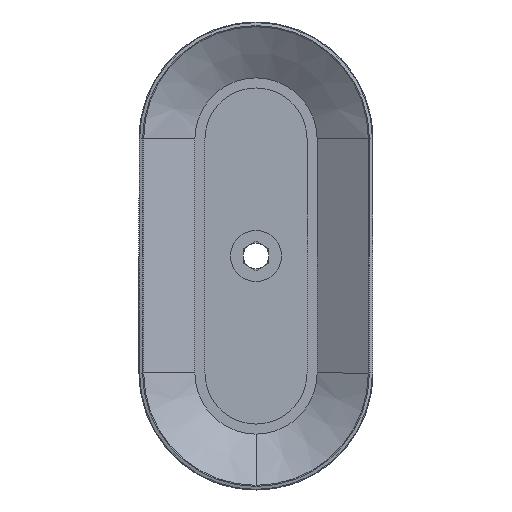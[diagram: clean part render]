
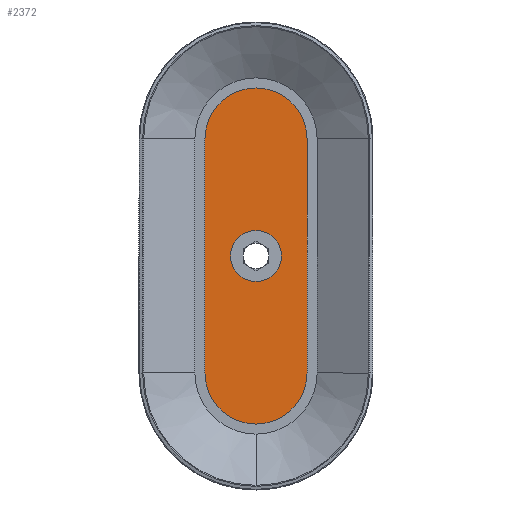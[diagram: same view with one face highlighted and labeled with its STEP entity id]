
A CAD part, front view. The second image highlights one B-rep face of the part: STEP entity #2372.
In plain terms, the highlighted planar face has unit normal (0, -1, 0).
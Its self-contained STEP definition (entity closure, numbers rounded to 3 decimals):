
#129 = CARTESIAN_POINT ( 'NONE',  ( 6., 13., 0. ) ) ;
#465 = CARTESIAN_POINT ( 'NONE',  ( 12., 13., -27.5 ) ) ;
#685 = CARTESIAN_POINT ( 'NONE',  ( 12., 13., 27.5 ) ) ;
#853 = DIRECTION ( 'NONE',  ( 0., 0., 1. ) ) ;
#914 = LINE ( 'NONE', #7797, #6466 ) ;
#1040 = EDGE_CURVE ( 'NONE', #3071, #6704, #4402, .T. ) ;
#1316 = AXIS2_PLACEMENT_3D ( 'NONE', #4159, #7029, #7206 ) ;
#1710 = EDGE_LOOP ( 'NONE', ( #8822, #7501 ) ) ;
#1832 = VERTEX_POINT ( 'NONE', #129 ) ;
#1852 = FACE_OUTER_BOUND ( 'NONE', #9167, .T. ) ;
#2211 = DIRECTION ( 'NONE',  ( -1., 0., 0. ) ) ;
#2372 = ADVANCED_FACE ( 'NONE', ( #1852, #11239 ), #4519, .F. ) ;
#2411 = VERTEX_POINT ( 'NONE', #685 ) ;
#2568 = CARTESIAN_POINT ( 'NONE',  ( -12., 13., -27.5 ) ) ;
#2909 = EDGE_CURVE ( 'NONE', #1832, #6309, #7336, .T. ) ;
#2989 = CARTESIAN_POINT ( 'NONE',  ( 0., 13., 39.5 ) ) ;
#3071 = VERTEX_POINT ( 'NONE', #465 ) ;
#3154 = AXIS2_PLACEMENT_3D ( 'NONE', #8816, #6947, #2211 ) ;
#3374 = EDGE_CURVE ( 'NONE', #2411, #3071, #914, .T. ) ;
#3401 = VERTEX_POINT ( 'NONE', #9344 ) ;
#3452 = CARTESIAN_POINT ( 'NONE',  ( 0., 13., -27.5 ) ) ;
#4005 = AXIS2_PLACEMENT_3D ( 'NONE', #5510, #11122, #8401 ) ;
#4057 = ORIENTED_EDGE ( 'NONE', *, *, #9922, .F. ) ;
#4070 = CIRCLE ( 'NONE', #4464, 6. ) ;
#4159 = CARTESIAN_POINT ( 'NONE',  ( 0., 13., 27.5 ) ) ;
#4402 = CIRCLE ( 'NONE', #12140, 12. ) ;
#4464 = AXIS2_PLACEMENT_3D ( 'NONE', #10071, #6092, #6162 ) ;
#4519 = PLANE ( 'NONE',  #4005 ) ;
#5316 = VERTEX_POINT ( 'NONE', #2989 ) ;
#5510 = CARTESIAN_POINT ( 'NONE',  ( -0.5, 13., 27.5 ) ) ;
#5817 = CARTESIAN_POINT ( 'NONE',  ( 0., 13., 27.5 ) ) ;
#6070 = LINE ( 'NONE', #7893, #6513 ) ;
#6092 = DIRECTION ( 'NONE',  ( 0., 1., 0. ) ) ;
#6162 = DIRECTION ( 'NONE',  ( -1., 0., 0. ) ) ;
#6309 = VERTEX_POINT ( 'NONE', #11370 ) ;
#6466 = VECTOR ( 'NONE', #6569, 1000. ) ;
#6513 = VECTOR ( 'NONE', #8078, 1000. ) ;
#6569 = DIRECTION ( 'NONE',  ( 0., 0., -1. ) ) ;
#6704 = VERTEX_POINT ( 'NONE', #2568 ) ;
#6875 = CIRCLE ( 'NONE', #1316, 12. ) ;
#6947 = DIRECTION ( 'NONE',  ( 0., 1., 0. ) ) ;
#7020 = EDGE_CURVE ( 'NONE', #6309, #1832, #4070, .T. ) ;
#7029 = DIRECTION ( 'NONE',  ( 0., 1., 0. ) ) ;
#7206 = DIRECTION ( 'NONE',  ( 0., 0., 1. ) ) ;
#7306 = EDGE_CURVE ( 'NONE', #5316, #2411, #6875, .T. ) ;
#7336 = CIRCLE ( 'NONE', #3154, 6. ) ;
#7501 = ORIENTED_EDGE ( 'NONE', *, *, #2909, .T. ) ;
#7532 = DIRECTION ( 'NONE',  ( 0., 1., 0. ) ) ;
#7797 = CARTESIAN_POINT ( 'NONE',  ( 12., 13., 27.5 ) ) ;
#7893 = CARTESIAN_POINT ( 'NONE',  ( -12., 13., 27.5 ) ) ;
#8078 = DIRECTION ( 'NONE',  ( 0., 0., 1. ) ) ;
#8081 = ORIENTED_EDGE ( 'NONE', *, *, #3374, .F. ) ;
#8094 = ORIENTED_EDGE ( 'NONE', *, *, #9830, .F. ) ;
#8401 = DIRECTION ( 'NONE',  ( 0., 0., 1. ) ) ;
#8468 = DIRECTION ( 'NONE',  ( 0., 0., 1. ) ) ;
#8810 = ORIENTED_EDGE ( 'NONE', *, *, #1040, .F. ) ;
#8816 = CARTESIAN_POINT ( 'NONE',  ( 0., 13., 0. ) ) ;
#8822 = ORIENTED_EDGE ( 'NONE', *, *, #7020, .T. ) ;
#9167 = EDGE_LOOP ( 'NONE', ( #8810, #8081, #11598, #8094, #4057 ) ) ;
#9344 = CARTESIAN_POINT ( 'NONE',  ( -12., 13., 27.5 ) ) ;
#9371 = DIRECTION ( 'NONE',  ( 0., 1., 0. ) ) ;
#9486 = CIRCLE ( 'NONE', #11271, 12. ) ;
#9830 = EDGE_CURVE ( 'NONE', #3401, #5316, #9486, .T. ) ;
#9922 = EDGE_CURVE ( 'NONE', #6704, #3401, #6070, .T. ) ;
#10071 = CARTESIAN_POINT ( 'NONE',  ( 0., 13., 0. ) ) ;
#11122 = DIRECTION ( 'NONE',  ( 0., 1., 0. ) ) ;
#11239 = FACE_BOUND ( 'NONE', #1710, .T. ) ;
#11271 = AXIS2_PLACEMENT_3D ( 'NONE', #5817, #7532, #8468 ) ;
#11370 = CARTESIAN_POINT ( 'NONE',  ( -6., 13., 0. ) ) ;
#11598 = ORIENTED_EDGE ( 'NONE', *, *, #7306, .F. ) ;
#12140 = AXIS2_PLACEMENT_3D ( 'NONE', #3452, #9371, #853 ) ;
